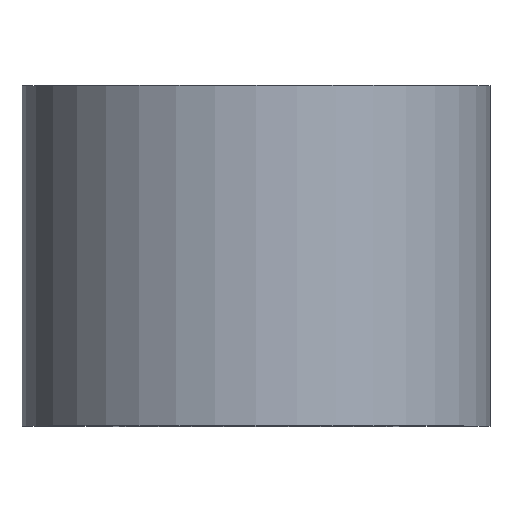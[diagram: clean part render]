
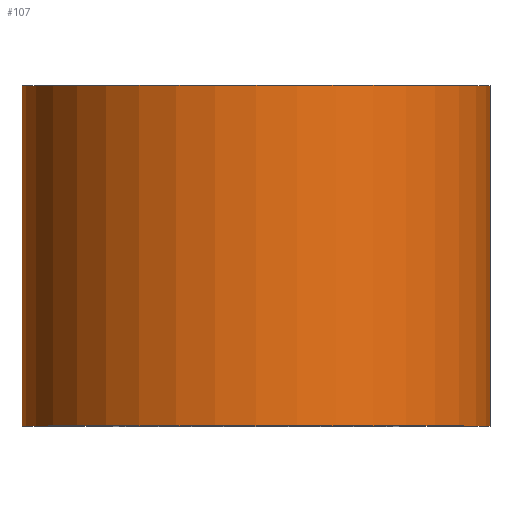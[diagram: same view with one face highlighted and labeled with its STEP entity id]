
A CAD part, top view. The second image highlights one B-rep face of the part: STEP entity #107.
In plain terms, the highlighted cylindrical face has radius 11 mm (diameter 22 mm), a partial arc.
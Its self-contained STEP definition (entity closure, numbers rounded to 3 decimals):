
#4 = DIRECTION ( 'NONE',  ( 0., 1., 0. ) ) ;
#11 = DIRECTION ( 'NONE',  ( -1., 0., 0. ) ) ;
#17 = CARTESIAN_POINT ( 'NONE',  ( 11., 0., 0. ) ) ;
#21 = FACE_OUTER_BOUND ( 'NONE', #246, .T. ) ;
#28 = CARTESIAN_POINT ( 'NONE',  ( 0., 0., 0. ) ) ;
#29 = VECTOR ( 'NONE', #180, 1000. ) ;
#37 = EDGE_CURVE ( 'NONE', #200, #82, #281, .T. ) ;
#43 = AXIS2_PLACEMENT_3D ( 'NONE', #28, #207, #198 ) ;
#50 = CARTESIAN_POINT ( 'NONE',  ( 0., 16., 0. ) ) ;
#60 = CARTESIAN_POINT ( 'NONE',  ( -11., 16., 0. ) ) ;
#80 = DIRECTION ( 'NONE',  ( -1., 0., 0. ) ) ;
#82 = VERTEX_POINT ( 'NONE', #60 ) ;
#83 = DIRECTION ( 'NONE',  ( 0., 1., 0. ) ) ;
#86 = LINE ( 'NONE', #17, #29 ) ;
#96 = ORIENTED_EDGE ( 'NONE', *, *, #280, .F. ) ;
#107 = ADVANCED_FACE ( 'NONE', ( #21 ), #160, .T. ) ;
#110 = CARTESIAN_POINT ( 'NONE',  ( -11., 0., 0. ) ) ;
#114 = EDGE_CURVE ( 'NONE', #200, #278, #287, .T. ) ;
#126 = ORIENTED_EDGE ( 'NONE', *, *, #114, .T. ) ;
#143 = EDGE_CURVE ( 'NONE', #278, #269, #86, .T. ) ;
#151 = AXIS2_PLACEMENT_3D ( 'NONE', #183, #83, #80 ) ;
#160 = CYLINDRICAL_SURFACE ( 'NONE', #43, 11. ) ;
#164 = ORIENTED_EDGE ( 'NONE', *, *, #37, .F. ) ;
#167 = CARTESIAN_POINT ( 'NONE',  ( -11., 0., 0. ) ) ;
#180 = DIRECTION ( 'NONE',  ( 0., 1., 0. ) ) ;
#183 = CARTESIAN_POINT ( 'NONE',  ( 0., 0., 0. ) ) ;
#198 = DIRECTION ( 'NONE',  ( -1., 0., 0. ) ) ;
#200 = VERTEX_POINT ( 'NONE', #167 ) ;
#202 = CARTESIAN_POINT ( 'NONE',  ( 11., 0., 0. ) ) ;
#203 = DIRECTION ( 'NONE',  ( 0., 1., 0. ) ) ;
#207 = DIRECTION ( 'NONE',  ( 0., 1., 0. ) ) ;
#233 = VECTOR ( 'NONE', #4, 1000. ) ;
#245 = CARTESIAN_POINT ( 'NONE',  ( 11., 16., 0. ) ) ;
#246 = EDGE_LOOP ( 'NONE', ( #126, #251, #96, #164 ) ) ;
#251 = ORIENTED_EDGE ( 'NONE', *, *, #143, .T. ) ;
#266 = AXIS2_PLACEMENT_3D ( 'NONE', #50, #203, #11 ) ;
#269 = VERTEX_POINT ( 'NONE', #245 ) ;
#278 = VERTEX_POINT ( 'NONE', #202 ) ;
#280 = EDGE_CURVE ( 'NONE', #82, #269, #296, .T. ) ;
#281 = LINE ( 'NONE', #110, #233 ) ;
#287 = CIRCLE ( 'NONE', #151, 11. ) ;
#296 = CIRCLE ( 'NONE', #266, 11. ) ;
